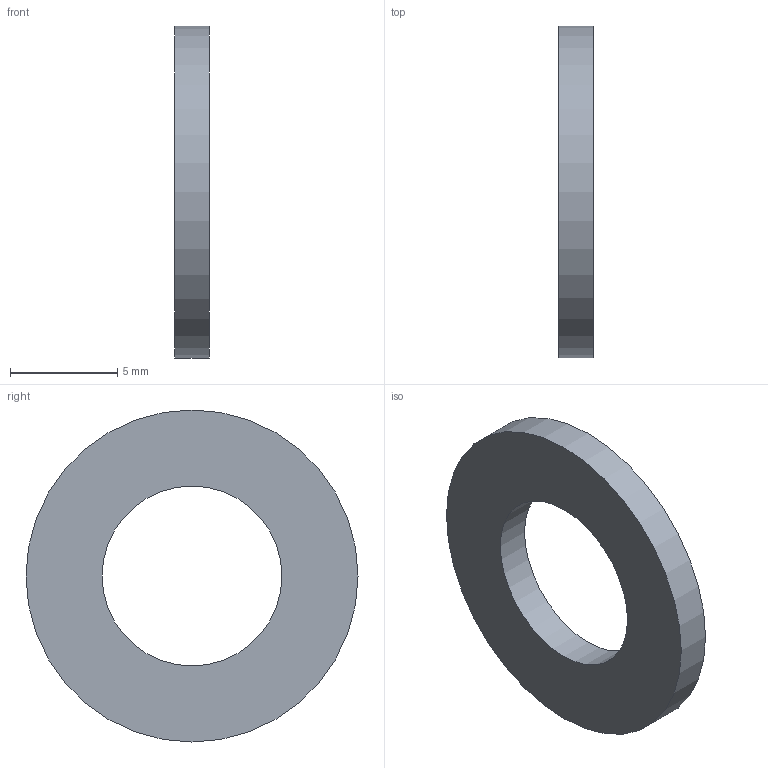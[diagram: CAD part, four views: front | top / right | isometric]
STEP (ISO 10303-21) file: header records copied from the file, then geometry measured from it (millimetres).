
FILE_DESCRIPTION(/* description */ ('평면 와셔'),/* implementation_level */ '2;1');
FILE_NAME(/* name */ '',/* time_stamp */ '2026-08-27T17:02:58+09:00',/* author */ ('jhkim'),/* organization */ (''),/* preprocessor_version */ 'ST-DEVELOPER v20.1',/* originating_system */ 'Autodesk Inventor 2027',/* authorisation */ '');
FILE_SCHEMA (('AUTOMOTIVE_DESIGN { 1 0 10303 214 3 1 1 }'));
Length unit declared in the file: millimetre
Products named in the file (1): 평 와셔 M8
Bounding box: 1.6 x 15.5 x 15.5 mm (x, y, z)
Volume: 213.2 mm3; surface area: 386.7 mm2
Topology: 1 solids, 1 shells, 4 faces, 6 edges, 4 vertices
Faces by surface type: cylinder 2, plane 2
Full cylindrical faces by diameter (mm): 8.4 x1, 15.5 x1
Entity records: 141 total; most frequent: DIRECTION 20, CARTESIAN_POINT 15, ORIENTED_EDGE 12, AXIS2_PLACEMENT_3D 9, EDGE_LOOP 6, EDGE_CURVE 6, FACE_OUTER_BOUND 4, CIRCLE 4
